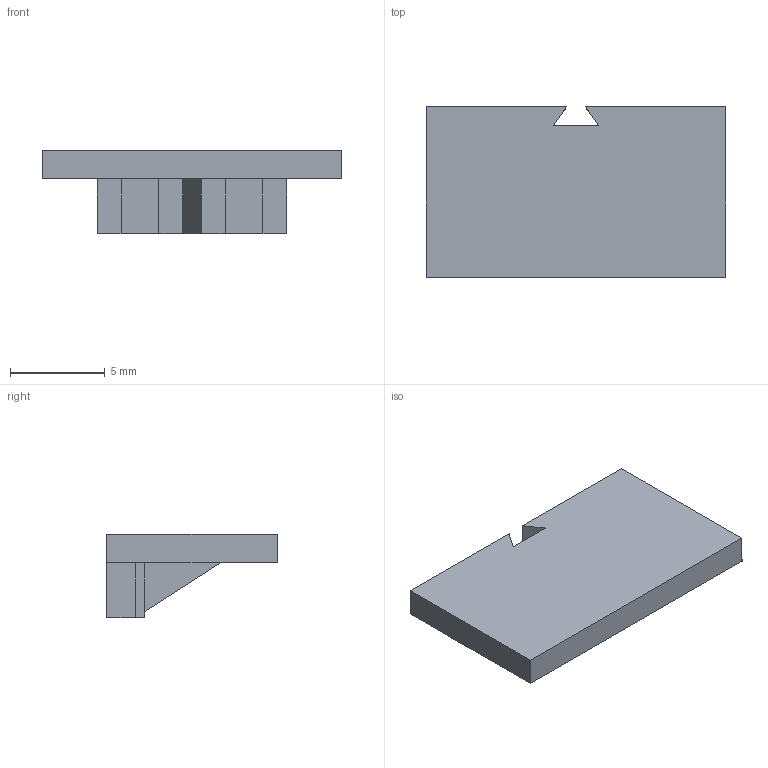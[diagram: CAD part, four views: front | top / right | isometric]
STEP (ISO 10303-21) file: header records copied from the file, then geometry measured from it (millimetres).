
FILE_DESCRIPTION(('STEP AP214'),'2;1');
FILE_NAME('095004_catalogo.stp','2010-09-07T14:35:07',(''),(''),'2007.1.106','THINKDESIGN','');
FILE_SCHEMA(('AUTOMOTIVE_DESIGN'));
Length unit declared in the file: millimetre
Products named in the file (1): None
Bounding box: 15.8 x 9 x 4.4 mm (x, y, z)
Surface area: 455.5 mm2 (no closed solid volume)
Topology: 0 solids, 0 shells, 28 faces, 152 edges, 152 vertices
Faces by surface type: plane 28
Entity records: 1529 total; most frequent: CARTESIAN_POINT 332, DIRECTION 208, VECTOR 152, LINE 152, TRIMMED_CURVE 152, COMPOSITE_CURVE_SEGMENT 152, AXIS2_PLACEMENT_3D 28, PLANE 28
